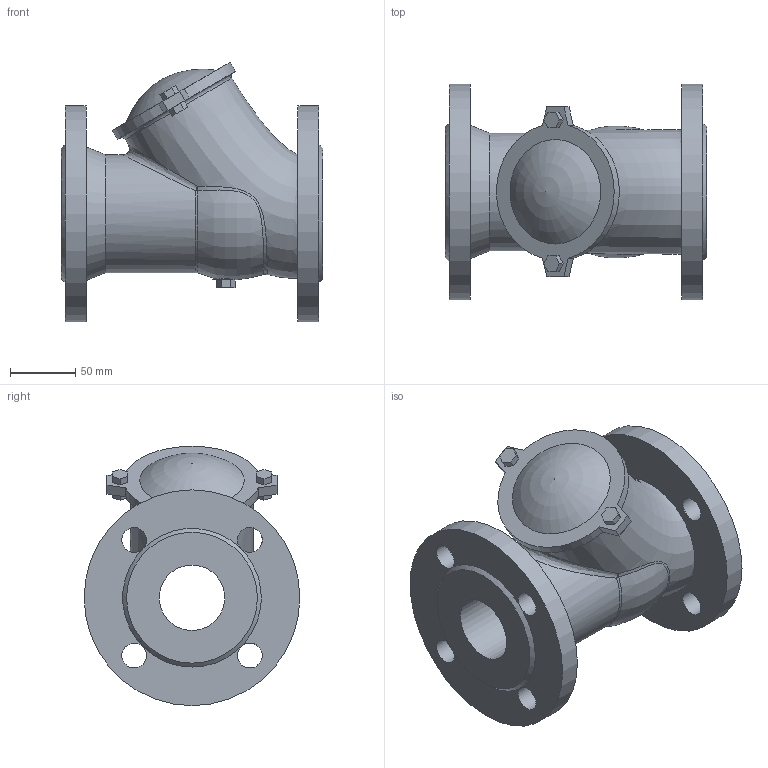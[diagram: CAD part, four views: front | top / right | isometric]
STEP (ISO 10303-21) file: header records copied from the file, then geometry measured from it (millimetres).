
FILE_DESCRIPTION(('STEP AP203'), '1');
FILE_NAME('抔黽鳧 012F.M DN50', '', ('UNSPECIFIED'), ('UNSPECIFIED'), 'ASCON STEP Converter 1.6', 'ASCON Math Kernel', '');
FILE_SCHEMA(('CONFIG_CONTROL_DESIGN'));
Length unit declared in the file: millimetre
Products named in the file (1): Клапан 012F.M DN50
Bounding box: 200 x 165 x 198.25 mm (x, y, z)
Surface area: 190232.3 mm2 (no closed solid volume)
Topology: 0 solids, 2 shells, 103 faces, 272 edges, 168 vertices
Faces by surface type: plane 60, cylinder 29, bspline 7, cone 4, torus 3
Full cylindrical faces by diameter (mm): 19 x8, 50 x1, 90 x1, 165 x2
Entity records: 8069 total; most frequent: CARTESIAN_POINT 4838, ORIENTED_EDGE 483, DIRECTION 441, EDGE_CURVE 245, VERTEX_POINT 164, AXIS2_PLACEMENT_3D 157, EDGE_LOOP 152, LINE 127
